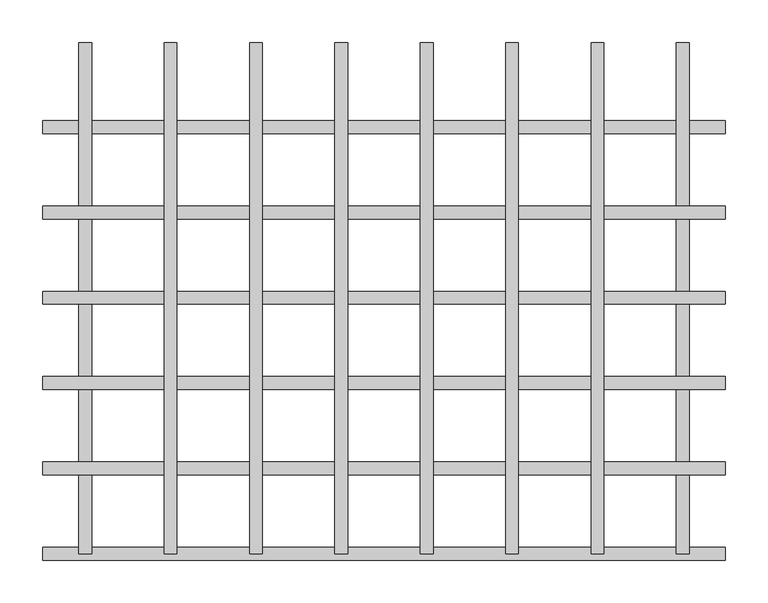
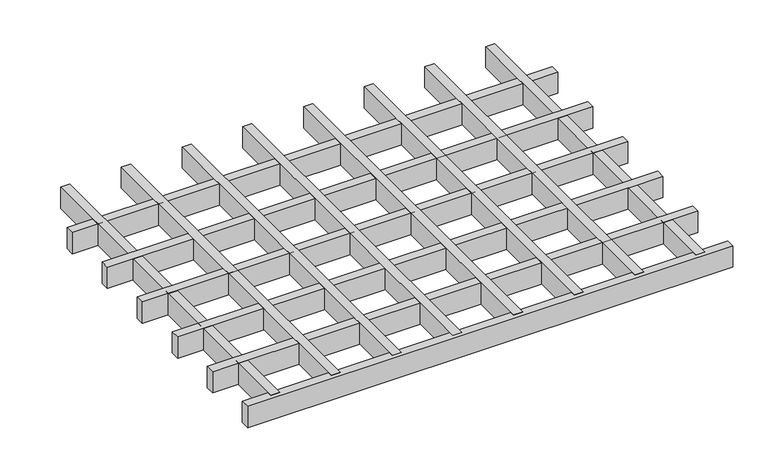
"""IFC4 building model written with IfcOpenShell, lengths in millimetres: proxy geometry, durlum_GEO_panel : durlum_GEO_15_length_cut."""

from ifc_helpers import new_model, si_unit, origin, origin_with_axes, place, context, project, spatial, polyline, outline, extrude, source, transform, mapped, element, save


def generic_models_b7501322(model_context):
    return source(origin(), model_context, "Body", "SweptSolid", [
        extrude(outline(polyline([(242.5, 299.5), (257.5, 299.5), (257.5, -299.5), (242.5, -299.5), (242.5, 299.5)])), origin_with_axes(), (0.0, 0.0, 1.0), 37.0),
        extrude(outline(polyline([(142.5, 299.5), (157.5, 299.5), (157.5, -299.5), (142.5, -299.5), (142.5, 299.5)])), origin_with_axes(), (0.0, 0.0, 1.0), 37.0),
        extrude(outline(polyline([(42.5, 299.5), (57.5, 299.5), (57.5, -299.5), (42.5, -299.5), (42.5, 299.5)])), origin_with_axes(), (0.0, 0.0, 1.0), 37.0),
        extrude(outline(polyline([(-57.5, 299.5), (-42.5, 299.5), (-42.5, -299.5), (-57.5, -299.5), (-57.5, 299.5)])), origin_with_axes(), (0.0, 0.0, 1.0), 37.0),
        extrude(outline(polyline([(-157.5, 299.5), (-142.5, 299.5), (-142.5, -299.5), (-157.5, -299.5), (-157.5, 299.5)])), origin_with_axes(), (0.0, 0.0, 1.0), 37.0),
        extrude(outline(polyline([(-257.5, 299.5), (-242.5, 299.5), (-242.5, -299.5), (-257.5, -299.5), (-257.5, 299.5)])), origin_with_axes(), (0.0, 0.0, 1.0), 37.0),
        extrude(outline(polyline([(399.75, -192.0), (399.75, -207.0), (-399.75, -207.0), (-399.75, -192.0), (399.75, -192.0)])), origin_with_axes(), (0.0, 0.0, 1.0), 37.0),
        extrude(outline(polyline([(399.75, -92.0), (399.75, -107.0), (-399.75, -107.0), (-399.75, -92.0), (399.75, -92.0)])), origin_with_axes(), (0.0, 0.0, 1.0), 37.0),
        extrude(outline(polyline([(399.75, 8.0), (399.75, -7.0), (-399.75, -7.0), (-399.75, 8.0), (399.75, 8.0)])), origin_with_axes(), (0.0, 0.0, 1.0), 37.0),
        extrude(outline(polyline([(399.75, 108.0), (399.75, 93.0), (-399.75, 93.0), (-399.75, 108.0), (399.75, 108.0)])), origin_with_axes(), (0.0, 0.0, 1.0), 37.0),
        extrude(outline(polyline([(342.5, 299.5), (357.5, 299.5), (357.5, -299.5), (342.5, -299.5), (342.5, 299.5)])), origin_with_axes(), (0.0, 0.0, 1.0), 37.0),
        extrude(outline(polyline([(-357.5, 299.5), (-342.5, 299.5), (-342.5, -299.5), (-357.5, -299.5), (-357.5, 299.5)])), origin_with_axes(), (0.0, 0.0, 1.0), 37.0),
        extrude(outline(polyline([(399.75, -292.0), (399.75, -307.0), (-399.75, -307.0), (-399.75, -292.0), (399.75, -292.0)])), origin_with_axes(), (0.0, 0.0, 1.0), 37.0),
        extrude(outline(polyline([(399.75, 208.0), (399.75, 193.0), (-399.75, 193.0), (-399.75, 208.0), (399.75, 208.0)])), origin_with_axes(), (0.0, 0.0, 1.0), 37.0),
    ])


if __name__ == "__main__":
    model = new_model("IFC4")
    model_context = context("Model", 3, world=origin())
    ifc_project = project(units=[si_unit("LENGTHUNIT", "METRE", prefix="MILLI")], contexts=[model_context])
    site = spatial("IfcSite", under=ifc_project)
    building = spatial("IfcBuilding", under=site)
    placement = place(None, origin())
    generic_models_shape = generic_models_b7501322(model_context)
    element("IfcBuildingElementProxy", 1, Name="durlum_GEO_panel : durlum_GEO_15_length_cut", ObjectType="durlum_GEO_panel : durlum_GEO_15_length_cut", at=placement, inside=building, context=model_context, shape_type="MappedRepresentation", body=[
        mapped(generic_models_shape, transform((0.0, 0.0, 0.0), x_axis=(1.0, 0.0, 0.0), y_axis=(0.0, 1.0, 0.0), z_axis=(0.0, 0.0, 1.0))),
    ])
    save(model, "model.ifc")
